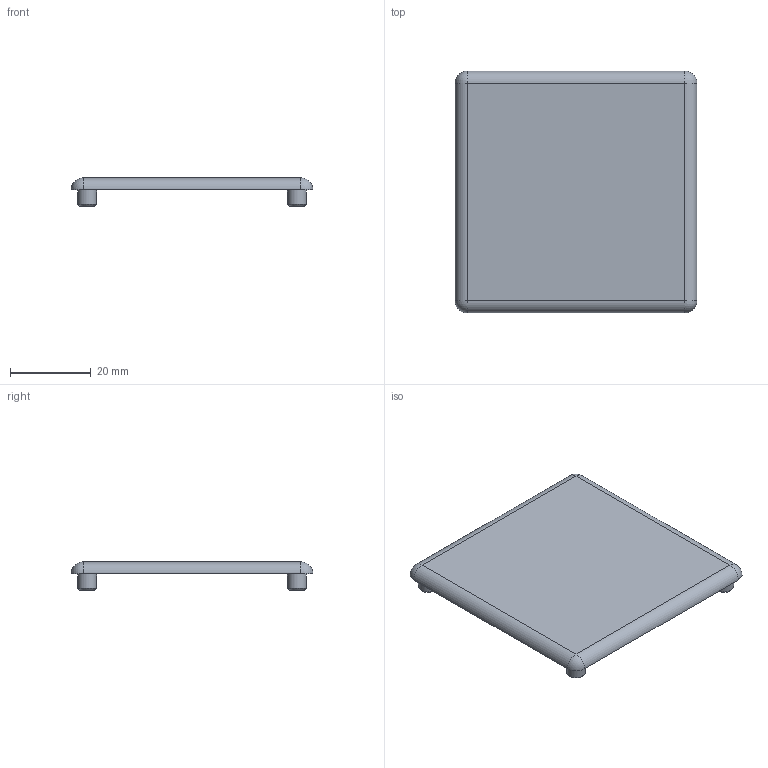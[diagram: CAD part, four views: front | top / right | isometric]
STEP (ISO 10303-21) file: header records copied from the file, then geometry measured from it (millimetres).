
FILE_DESCRIPTION (( 'STEP AP214' ), '1' );
FILE_NAME ('SL01008.step', '2024-12-03T16:30:23', ( '' ), ( '' ), 'SwSTEP 2.0', 'SolidWorks 2023', '' );
FILE_SCHEMA (( 'AUTOMOTIVE_DESIGN' ));
Length unit declared in the file: millimetre
Products named in the file (1): SL01008
Bounding box: 60 x 60 x 7 mm (x, y, z)
Volume: 10483.1 mm3; surface area: 7949.1 mm2
Topology: 1 solids, 1 shells, 32 faces, 63 edges, 38 vertices
Faces by surface type: cylinder 13, plane 11, sphere 4, cone 4
Full cylindrical faces by diameter (mm): 1 x1, 3 x4, 4.65 x4
Entity records: 727 total; most frequent: DIRECTION 142, CARTESIAN_POINT 109, ORIENTED_EDGE 84, AXIS2_PLACEMENT_3D 67, EDGE_LOOP 54, EDGE_CURVE 42, FACE_OUTER_BOUND 41, VERTEX_POINT 34
